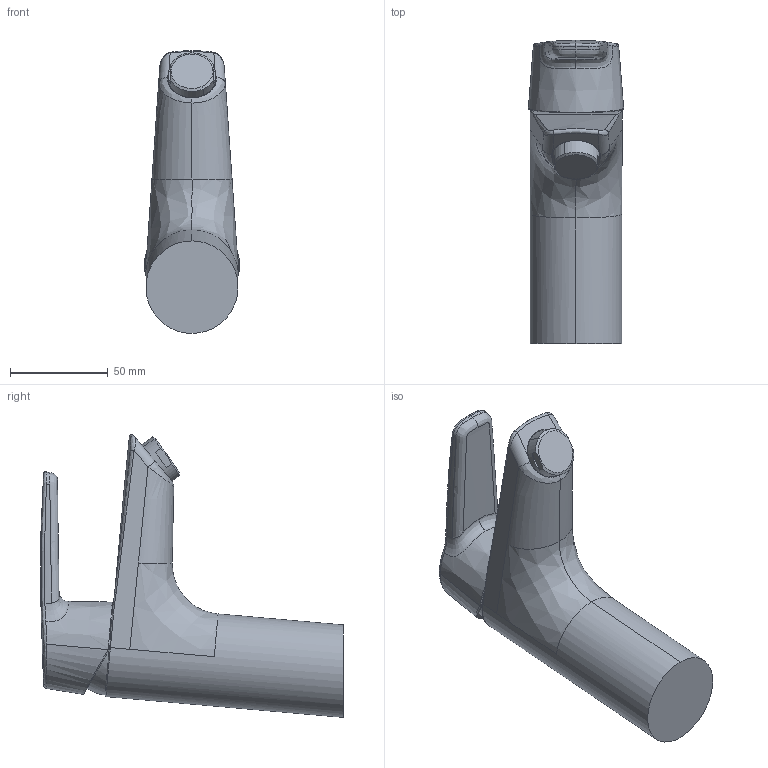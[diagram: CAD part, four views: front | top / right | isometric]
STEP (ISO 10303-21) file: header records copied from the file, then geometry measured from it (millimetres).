
FILE_DESCRIPTION (( 'STEP AP203' ), '1' );
FILE_NAME ('3911F-104(2022)+3911F-105(2022).STEP', '2022-02-21T12:03:35', ( '' ), ( '' ), 'SwSTEP 2.0', 'SolidWorks 2016', '' );
FILE_SCHEMA (( 'CONFIG_CONTROL_DESIGN' ));
Length unit declared in the file: millimetre
Products named in the file (1): 3911F-104(2022)+3911F-105(2022)
Bounding box: 48.62 x 154.62 x 144.35 mm (x, y, z)
Volume: 362683.3 mm3; surface area: 41501 mm2
Topology: 1 solids, 2 shells, 89 faces, 241 edges, 155 vertices
Faces by surface type: bspline 54, plane 18, cylinder 12, cone 5
Entity records: 14015 total; most frequent: CARTESIAN_POINT 12224, ORIENTED_EDGE 480, EDGE_CURVE 240, DIRECTION 183, VERTEX_POINT 155, B_SPLINE_CURVE_WITH_KNOTS 149, FACE_OUTER_BOUND 89, EDGE_LOOP 89
